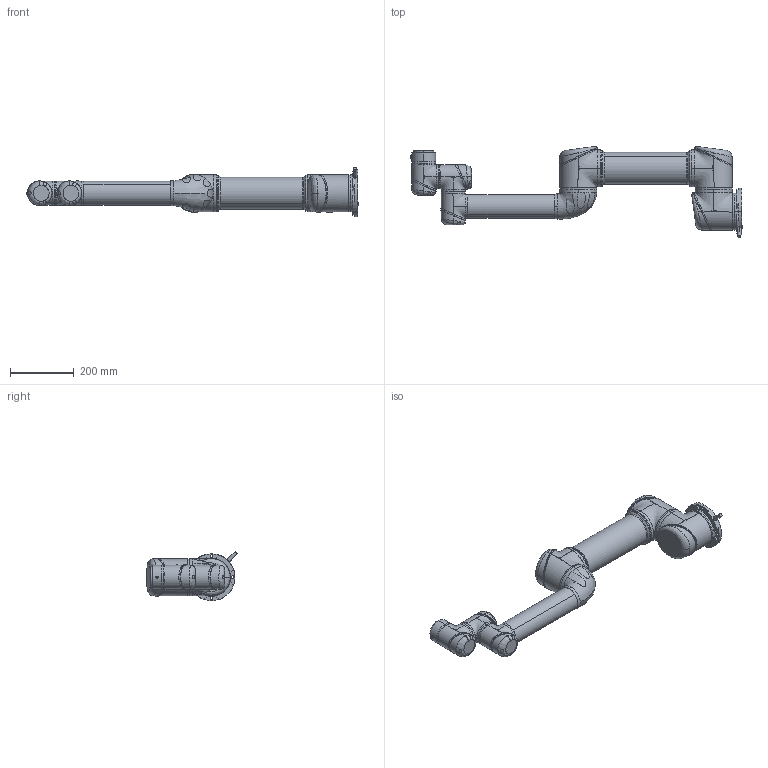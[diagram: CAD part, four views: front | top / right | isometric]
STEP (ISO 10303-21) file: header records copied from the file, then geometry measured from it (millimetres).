
FILE_DESCRIPTION (( 'STEP AP214' ), '1' );
FILE_NAME ('UR5.STEP', '2014-10-17T09:39:27', ( 'Bilge' ), ( '' ), 'SwSTEP 2.0', 'SolidWorks 2014', '' );
FILE_SCHEMA (( 'AUTOMOTIVE_DESIGN' ));
Length unit declared in the file: millimetre
Products named in the file (10): Size 1_Joint lid_r07_Simple; Size 1 r泗_r01_Simple; Size 3_House_r11_Simple; Size 3_Round base_r02_Simple; Size 1_House_r13_Simple; UR5; Size 3 to Size 1_Angle_r02_Simple; Size 1_Tool flange_r03_Simple; Size 3_Over arm_r01_Simpel; Size 3_Joint lid_r06_Simple
Assembly tree (17 placements, depth 2):
  UR5
    Size 1_House_r13_Simple  x3
    Size 3_Round base_r02_Simple
    Size 3_House_r11_Simple  x3
    Size 1 r泗_r01_Simple
    Size 1_Joint lid_r07_Simple  x3
    Size 3_Joint lid_r06_Simple  x3
    Size 3_Over arm_r01_Simpel
    Size 1_Tool flange_r03_Simple
    Size 3 to Size 1_Angle_r02_Simple
Bounding box: 1042.63 x 285.64 x 154.92 mm (x, y, z)
Volume: 10988712.3 mm3; surface area: 736391.2 mm2
Topology: 18 solids, 23 shells, 430 faces, 1507 edges, 1153 vertices
Faces by surface type: bspline 176, cylinder 146, plane 83, cone 25
Entity records: 39405 total; most frequent: CARTESIAN_POINT 32616, ORIENTED_EDGE 1562, DIRECTION 996, EDGE_CURVE 781, VERTEX_POINT 575, AXIS2_PLACEMENT_3D 416, B_SPLINE_CURVE_WITH_KNOTS 395, EDGE_LOOP 292
